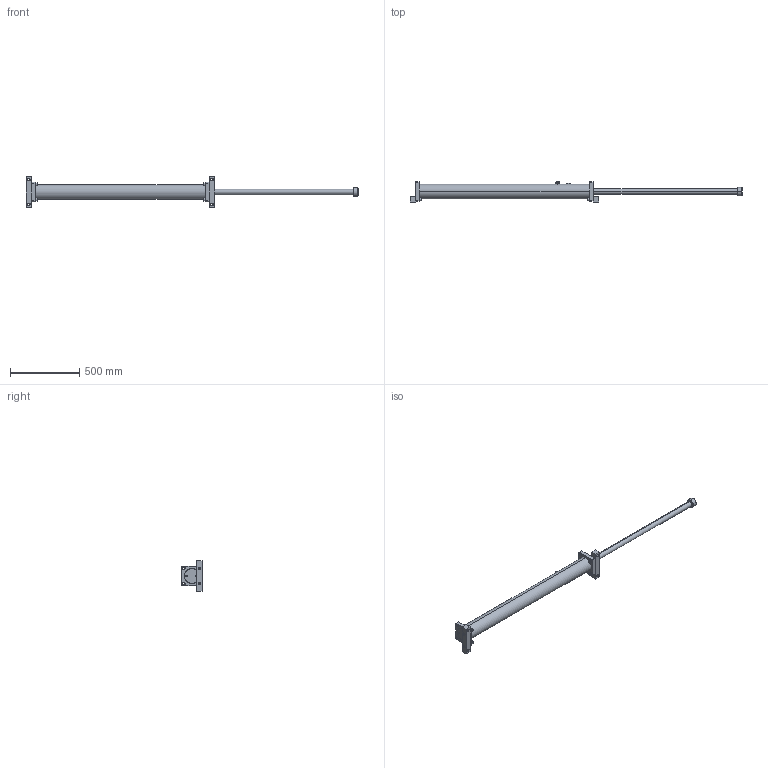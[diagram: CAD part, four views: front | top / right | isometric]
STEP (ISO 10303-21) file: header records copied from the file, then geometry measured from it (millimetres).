
FILE_DESCRIPTION (( 'STEP AP214' ), '1' );
FILE_NAME ('LDD2.0X40.STEP', '2019-01-16T06:38:44', ( 'user' ), ( 'Microsoft' ), 'SwSTEP 2.0', 'SolidWorks 2016', '' );
FILE_SCHEMA (( 'AUTOMOTIVE_DESIGN' ));
Length unit declared in the file: inch
Products named in the file (1): LDD2.0X40
Bounding box: 2391 x 145.5 x 220 mm (x, y, z)
Surface area: 780204.6 mm2 (no closed solid volume)
Topology: 0 solids, 25 shells, 249 faces, 673 edges, 454 vertices
Faces by surface type: plane 93, cylinder 77, cone 55, bspline 24
Entity records: 12860 total; most frequent: CARTESIAN_POINT 6635, DIRECTION 1315, ORIENTED_EDGE 1179, EDGE_CURVE 673, AXIS2_PLACEMENT_3D 507, VERTEX_POINT 454, EDGE_LOOP 304, VECTOR 301
